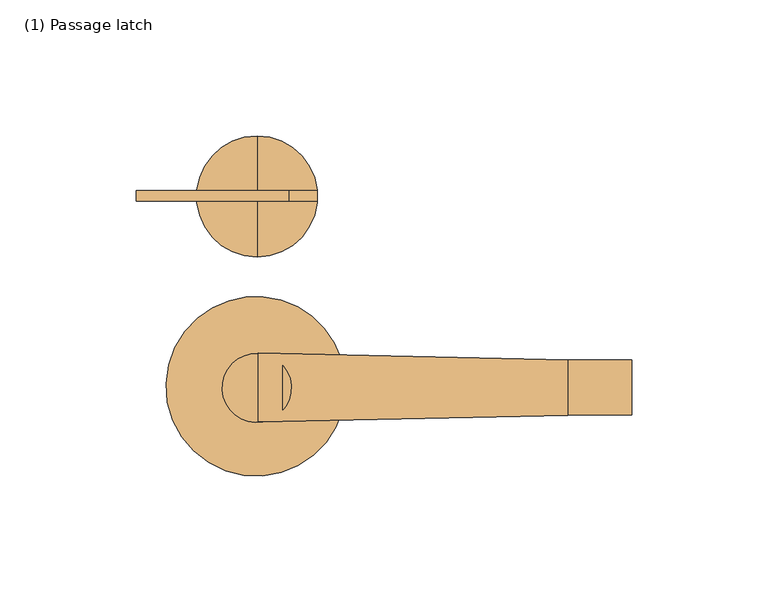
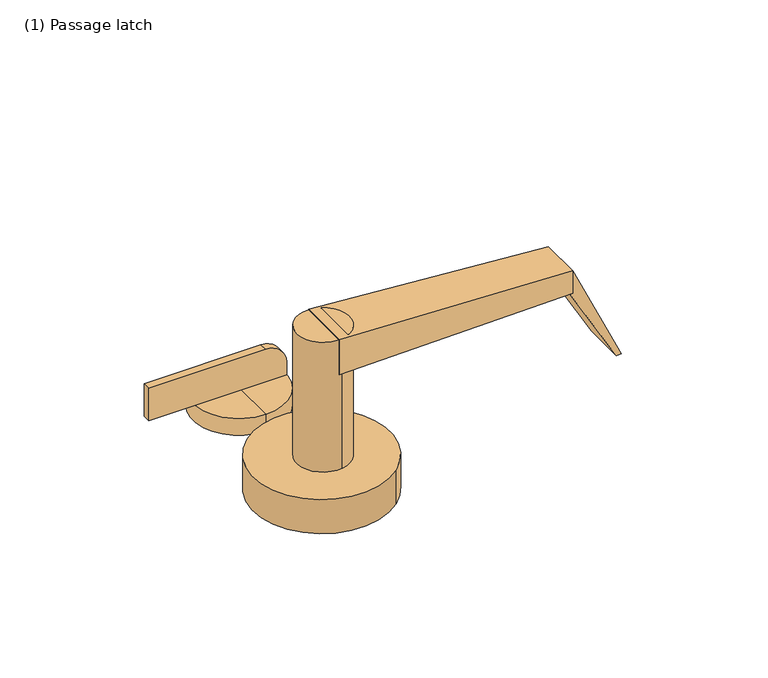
"""IFC4 building model written with IfcOpenShell, lengths in millimetres: door geometry, Door_Handle-Teknion-FHHSL-Schlage L Series(Child) : (1) Passage latch."""

from ifc_helpers import new_model, si_unit, point, frame, frame_2d, origin, origin_with_axes, place, context, project, spatial, polyline, circle_curve, trimmed, segment, composite_curve, outline, extrude, source, transform, mapped, element, save
from ifc_brep_helpers import plane_surface, cylinder_surface, spline_surface, advanced_brep


def door_1_passage_latch_88182d44(model_context):
    return source(origin(), model_context, "Body", "SolidModel", [
        advanced_brep(
        [(113.0826159, -9.8661661, 77.089), (113.0826159, -9.8661661, 65.659), (113.0826159, 10.4783486, 65.659), (113.0826159, 10.4783486, 77.089), (-0.79375, -12.3783123, 83.439), (-0.79375, 13.0118705, 83.439), (-0.79375, 13.0089229, 65.659), (-0.79375, -12.378509, 65.659)],
        [
            (0, 1),
            (1, 2),
            (2, 3),
            (3, 0),
            (4, 5),
            (5, 6),
            (6, 7),
            (7, 4),
            (7, 1),
            (0, 4),
            (6, 2),
            (5, 3),
        ],
        [
            plane_surface(frame((113.0826159, 0.3060912, 71.374), z_axis=(1.0, 0.0, 0.0), x_axis=(0.0, -1.0, 0.0))),
            plane_surface(frame((-0.79375, 0.315993, 74.549), z_axis=(-1.0000000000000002, 0.0, 0.0), x_axis=(0.0, -1.1064247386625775e-05, -0.9999999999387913))),
            spline_surface(1, 1, [[(-0.79375, -12.3783123, 83.439), (113.0826159, -9.8661661, 77.089)], [(-0.79375, -12.378509, 65.659), (113.0826159, -9.8661661, 65.659)]], [2, 2], [2, 2], [0.0, 1.0], [0.0, 1.0]),
            plane_surface(frame((-0.79375, 0.315207, 65.659), z_axis=(0.0, 0.0, -1.0), x_axis=(0.0, 1.0, 0.0))),
            spline_surface(1, 1, [[(-0.79375, 13.0089229, 65.659), (113.0826159, 10.4783486, 65.659)], [(-0.79375, 13.0118705, 83.439), (113.0826159, 10.4783486, 77.089)]], [2, 2], [2, 2], [0.0, 1.0], [0.0, 1.0]),
            plane_surface(frame((-0.79375, 0.3167791, 83.439), z_axis=(0.05567573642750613, 0.0, 0.9984489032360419), x_axis=(0.0, -1.0, 0.0))),
        ],
        [
            (0, [[1, 2, 3, 4]]),
            (1, [[5, 6, 7, 8]]),
            (2, [[-8, 9, -1, 10]]),
            (3, [[-7, 11, -2, -9]]),
            (4, [[-6, 12, -3, -11]]),
            (5, [[-5, -10, -4, -12]]),
        ],
    ),
        extrude(outline(composite_curve([segment(trimmed(circle_curve(frame_2d((-1.3064074, 0.1984375)), 12.7), [point((-3.427265, 12.7200973))], [point((0.8144502, -12.3232223))], False, "CARTESIAN"), True, "CONTINUOUS"), segment(trimmed(circle_curve(frame_2d((-1.3064074, 0.1984375)), 12.7), [point((0.8144502, -12.3232223))], [point((-3.427265, 12.7200973))], False, "CARTESIAN"), True, "CONTINUOUS")], self_intersect=False)), frame((0.0, 0.0, 17.399), z_axis=(0.0, 0.0, 1.0), x_axis=(1.0, 0.0, 0.0)), (0.0, 0.0, 1.0), 66.04),
        extrude(outline(composite_curve([segment(trimmed(circle_curve(frame_2d((-1.6178614, 0.7745191)), 33.02), [point((-22.9508261, 25.9781898))], [point((19.7151032, -24.4291516))], False, "CARTESIAN"), True, "CONTINUOUS"), segment(trimmed(circle_curve(frame_2d((-1.6178614, 0.7745191)), 33.02), [point((19.7151032, -24.4291516))], [point((-22.9508261, 25.9781898))], False, "CARTESIAN"), True, "CONTINUOUS")], self_intersect=False)), origin_with_axes(), (0.0, 0.0, 1.0), 17.399),
        extrude(outline(polyline([(77.089, 113.0826159), (65.659, 113.0826159), (65.659, 111.7545147), (26.5862634, 134.0924288), (26.5862634, 136.6324288), (77.089, 113.0826159)])), frame((0.0, -9.8416514, 0.0), z_axis=(0.0, 1.0, 0.0), x_axis=(0.0, 0.0, 1.0)), (0.0, 0.0, 1.0), 20.32),
        extrude(outline(composite_curve([segment(polyline([(25.146, 10.6467926), (25.146, -45.6833325), (8.636, -45.6833325), (8.636, 20.8690339), (15.3233, 20.8690339)]), True, "CONTINUOUS"), segment(trimmed(circle_curve(frame_2d((14.9632029, 10.6925033)), 10.1828997), [point((15.3233, 20.8690339))], [point((25.146, 10.6467926))], False, "CARTESIAN"), True, "CONTINUOUS")], self_intersect=False)), frame((0.0, 68.8789197, 0.0), z_axis=(0.0, 1.0, 0.0), x_axis=(0.0, 0.0, 1.0)), (0.0, 0.0, 1.0), 3.81),
        advanced_brep(
        [(-1.190625, 92.8715961, 8.636), (-1.190625, 48.3891034, 8.636), (-1.190625, 70.6303498, 8.636), (-1.190625, 92.8715961, 0.0), (-1.190625, 48.3891034, 0.0), (-1.190625, 70.6303498, 0.0)],
        [
            (0, 1, circle_curve(frame((-1.190625, 70.6303498, 8.636), z_axis=(0.0, 0.0, 1.0), x_axis=(0.0, -1.0, 0.0)), 22.2412463)),
            (1, 2),
            (2, 0),
            (1, 0, circle_curve(frame((-1.190625, 70.6303498, 8.636), z_axis=(0.0, 0.0, 1.0), x_axis=(0.0, -1.0, 0.0)), 22.2412463)),
            (3, 4, circle_curve(frame((-1.190625, 70.6303498, 0.0), z_axis=(0.0, 0.0, 1.0), x_axis=(0.0, -1.0, 0.0)), 22.2412463)),
            (4, 1),
            (0, 3),
            (4, 3, circle_curve(frame((-1.190625, 70.6303498, 0.0), z_axis=(0.0, 0.0, 1.0), x_axis=(0.0, -1.0, 0.0)), 22.2412463)),
            (5, 4),
            (3, 5),
        ],
        [
            plane_surface(frame((-1.190625, 70.6303498, 8.636), z_axis=(0.0, 0.0, 1.0), x_axis=(0.0, -1.0, 0.0))),
            cylinder_surface(frame((-1.190625, 70.6303498, 76.2), z_axis=(0.0, 0.0, -1.0), x_axis=(0.0, -1.0, 0.0)), 22.2412463),
            plane_surface(frame((-1.190625, 70.6303498, 0.0), z_axis=(0.0, 0.0, -1.0), x_axis=(0.0, -1.0, 0.0))),
        ],
        [
            (0, [[1, 2, 3]]),
            (0, [[4, -3, -2]]),
            (1, [[5, 6, -1, 7]]),
            (1, [[8, -7, -4, -6]]),
            (2, [[9, -5, 10]]),
            (2, [[-10, -8, -9]]),
        ],
    ),
    ])


if __name__ == "__main__":
    model = new_model("IFC4")
    model_context = context("Model", 3, world=origin())
    ifc_project = project(units=[si_unit("LENGTHUNIT", "METRE", prefix="MILLI")], contexts=[model_context])
    site = spatial("IfcSite", under=ifc_project)
    building = spatial("IfcBuilding", under=site)
    placement = place(None, origin())
    door_1_passage_latch_shape = door_1_passage_latch_88182d44(model_context)
    element("IfcDoor", 1, ObjectType="Door_Handle-Teknion-FHHSL-Schlage L Series(Child) : (1) Passage latch", at=placement, inside=building, context=model_context, shape_type="MappedRepresentation", body=[
        mapped(door_1_passage_latch_shape, transform((0.0, 0.0, 0.0), x_axis=(1.0, 0.0, 0.0), y_axis=(0.0, 1.0, 0.0), z_axis=(0.0, 0.0, 1.0))),
    ])
    save(model, "model.ifc")
